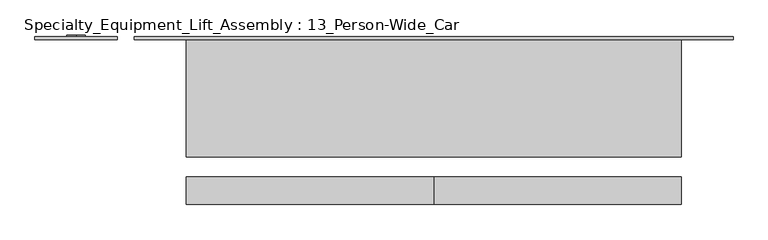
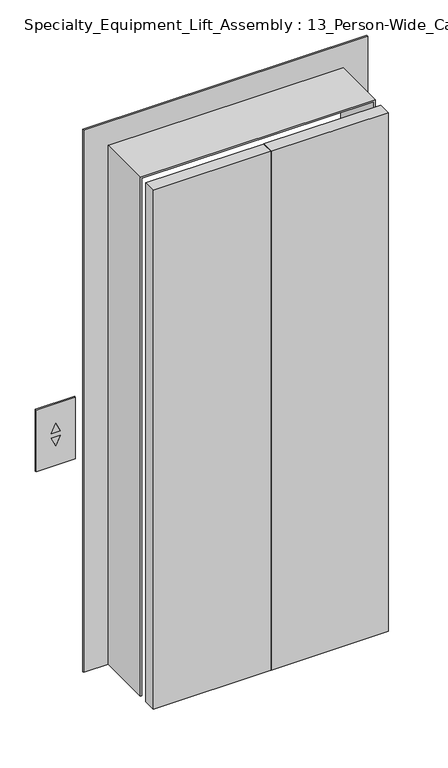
"""IFC4 building model written with IfcOpenShell, lengths in millimetres: proxy geometry, Specialty_Equipment_Lift_Assembly : 13_Person-Wide_Car."""

import ifcopenshell
import ifcopenshell.guid

model = None  # the IFC model being written
_history = None  # IfcOwnerHistory: only IFC2X3 demands one
_inside = {}  # id of a spatial element -> (the spatial element, [elements in it])
_under = {}  # id of a project, library or spatial element -> (it, [spatial elements below it])
_declared = {}  # id of a project -> (the project, [libraries it declares])
_typed = {}  # id of a type object -> (the type object, [elements of that type])
_made_of = {}  # id of a material, layer set ... -> (it, [elements and type objects made of it])


def new_model(schema):
    """Start an empty IFC model of exactly this schema.

    Asked for "IFC4X3", IfcOpenShell would pick the latest addendum, in which some entities
    have other attributes; the version numbers below select the first issue.
    IFC2X3 requires an IfcOwnerHistory on every rooted entity: one is made here for all.
    """
    global model, _history
    if schema == "IFC4X3":
        model = ifcopenshell.file(schema_version=(4, 3, 0, 0))
    else:
        model = ifcopenshell.file(schema=schema)
    _inside.clear()
    _under.clear()
    _declared.clear()
    _typed.clear()
    _made_of.clear()
    _history = None
    if model.schema == "IFC2X3":
        org = make("IfcOrganization", Name="unknown")
        user = make(
            "IfcPersonAndOrganization",
            ThePerson=make("IfcPerson", FamilyName="unknown"),
            TheOrganization=org,
        )
        app = make(
            "IfcApplication",
            ApplicationDeveloper=org,
            Version="unknown",
            ApplicationFullName="unknown",
            ApplicationIdentifier="unknown",
        )
        _history = make(
            "IfcOwnerHistory",
            OwningUser=user,
            OwningApplication=app,
            ChangeAction="ADDED",
            CreationDate=0,
        )
    return model


def make(cls, **values):
    """One entity of the class cls with the attributes given. An attribute that is None is left unset."""
    return model.create_entity(
        cls, **{name: value for name, value in values.items() if value is not None}
    )


def rooted(cls, **values):
    """An entity with a GlobalId (a new one), such as an element, a storey or a relation."""
    return make(cls, GlobalId=ifcopenshell.guid.new(), OwnerHistory=_history, **values)


def si_unit(unit_type, name, prefix=None):
    """IfcSIUnit, for example si_unit("LENGTHUNIT", "METRE", prefix="MILLI")."""
    return make("IfcSIUnit", UnitType=unit_type, Prefix=prefix, Name=name)


def assignment(units):
    """IfcUnitAssignment: the units of a project."""
    return None if units is None else make("IfcUnitAssignment", Units=units)


def point(xyz):
    """IfcCartesianPoint."""
    return None if xyz is None else make("IfcCartesianPoint", Coordinates=xyz)


def direction(xyz):
    """IfcDirection."""
    return None if xyz is None else make("IfcDirection", DirectionRatios=xyz)


def frame(location, z_axis=None, x_axis=None):
    """IfcAxis2Placement3D, a coordinate frame: its origin and axes. An axis left out is left unset."""
    return make(
        "IfcAxis2Placement3D",
        Location=point(location),
        Axis=direction(z_axis),
        RefDirection=direction(x_axis),
    )


def origin():
    """The frame at (0, 0, 0) with its axes left unset."""
    return frame((0.0, 0.0, 0.0))


def origin_with_axes():
    """The frame at (0, 0, 0) with the z axis (0, 0, 1) and the x axis (1, 0, 0) written out."""
    return frame((0.0, 0.0, 0.0), z_axis=(0.0, 0.0, 1.0), x_axis=(1.0, 0.0, 0.0))


def place(relative_to, where):
    """IfcLocalPlacement: puts the frame where relative to a parent placement (None: the world)."""
    return make(
        "IfcLocalPlacement", PlacementRelTo=relative_to, RelativePlacement=where
    )


def context(
    kind, dimensions, precision=None, world=None, true_north=None, identifier=None
):
    """IfcGeometricRepresentationContext, for example the 3D "Model" context."""
    return make(
        "IfcGeometricRepresentationContext",
        ContextIdentifier=identifier,
        ContextType=kind,
        CoordinateSpaceDimension=dimensions,
        Precision=precision,
        WorldCoordinateSystem=world,
        TrueNorth=true_north,
    )


def project(units=None, contexts=None):
    """IfcProject with its units and contexts."""
    return rooted(
        "IfcProject",
        Name="project",
        RepresentationContexts=contexts,
        UnitsInContext=assignment(units),
    )


def spatial(cls, under=None, at=None, **own):
    """A site, building, storey or space (cls), placed at a placement, below another one or the project."""
    s = rooted(cls, ObjectPlacement=at, **own)
    if under is not None:
        _under.setdefault(under.id(), (under, []))[1].append(s)
    return s


def polyline(points):
    """IfcPolyline through the points."""
    return make("IfcPolyline", Points=[point(p) for p in points])


def outline(outer, holes=None, kind="AREA"):
    """IfcArbitraryClosedProfileDef: a profile drawn as a closed curve; with holes, ...WithVoids."""
    if holes is None:
        return make("IfcArbitraryClosedProfileDef", ProfileType=kind, OuterCurve=outer)
    return make(
        "IfcArbitraryProfileDefWithVoids",
        ProfileType=kind,
        OuterCurve=outer,
        InnerCurves=holes,
    )


def extrude(swept, where, along, depth):
    """IfcExtrudedAreaSolid: the profile swept, set in the frame where, extruded along a direction by depth."""
    return make(
        "IfcExtrudedAreaSolid",
        SweptArea=swept,
        Position=where,
        ExtrudedDirection=direction(along),
        Depth=depth,
    )


def faces_of(points, faces, orient=None, outer=None):
    """IfcFace entities. A face is a list of loops; a loop is a list of indices into points, from 0.

    orient and outer hold one flag for each loop. By default every Orientation is true, the
    first loop of a face is its IfcFaceOuterBound and the others are IfcFaceBound.
    """
    made = []
    for i, loops in enumerate(faces):
        bounds = []
        for j, loop in enumerate(loops):
            is_outer = j == 0 if outer is None else outer[i][j]
            bounds.append(
                make(
                    "IfcFaceOuterBound" if is_outer else "IfcFaceBound",
                    Bound=make("IfcPolyLoop", Polygon=[points[k] for k in loop]),
                    Orientation=True if orient is None else orient[i][j],
                )
            )
        made.append(make("IfcFace", Bounds=bounds))
    return made


def faceted_brep(points, faces, orient=None, outer=None, voids=None):
    """IfcFacetedBrep: a solid bounded by flat faces; with voids (closed shells), ...WithVoids."""
    shared = [point(p) for p in points]
    hull = make("IfcClosedShell", CfsFaces=faces_of(shared, faces, orient, outer))
    if voids is None:
        return make("IfcFacetedBrep", Outer=hull)
    return make(
        "IfcFacetedBrepWithVoids",
        Outer=hull,
        Voids=[
            make(cls, CfsFaces=faces_of(shared, fs, o, b)) for cls, fs, o, b in voids
        ],
    )


def shape(context_of_items, identifier, shape_type, items):
    """IfcShapeRepresentation: the items that make up one representation, for example the "Body"."""
    return make(
        "IfcShapeRepresentation",
        ContextOfItems=context_of_items,
        RepresentationIdentifier=identifier,
        RepresentationType=shape_type,
        Items=items,
    )


def source(mapping_origin, context_of_items, identifier, shape_type, items):
    """IfcRepresentationMap: a shape defined once, which mapped items show again and again."""
    return make(
        "IfcRepresentationMap",
        MappingOrigin=mapping_origin,
        MappedRepresentation=shape(context_of_items, identifier, shape_type, items),
    )


def transform(
    local_origin,
    x_axis=None,
    y_axis=None,
    z_axis=None,
    scale=None,
    scale2=None,
    scale3=None,
    uniform=True,
):
    """IfcCartesianTransformationOperator3D, or its non-uniform kind. x_axis, y_axis, z_axis: its Axis1, 2, 3."""
    if uniform:
        return make(
            "IfcCartesianTransformationOperator3D",
            Axis1=direction(x_axis),
            Axis2=direction(y_axis),
            LocalOrigin=point(local_origin),
            Scale=scale,
            Axis3=direction(z_axis),
        )
    return make(
        "IfcCartesianTransformationOperator3DnonUniform",
        Axis1=direction(x_axis),
        Axis2=direction(y_axis),
        LocalOrigin=point(local_origin),
        Scale=scale,
        Axis3=direction(z_axis),
        Scale2=scale2,
        Scale3=scale3,
    )


def mapped(mapping_source, mapping_target):
    """IfcMappedItem: shows the shape of a source again, moved by a transform."""
    return make(
        "IfcMappedItem", MappingSource=mapping_source, MappingTarget=mapping_target
    )


def made_of(thing, what):
    """Note that an element or type object is made of a material, layer set ...; save() writes the relation."""
    if what is not None:
        _made_of.setdefault(what.id(), (what, []))[1].append(thing)
    return thing


def element(
    cls,
    number,
    at=None,
    inside=None,
    cuts=None,
    type_object=None,
    material=None,
    context=None,
    identifier="Body",
    shape_type=None,
    held_by="IfcProductDefinitionShape",
    body=None,
    shapes=None,
    **own,
):
    """One element of the class cls, such as IfcWall. Its Tag is "e" and its number.

    at: its placement. inside: the storey or other place that contains it. cuts: it is an
    opening in that element (IfcRelVoidsElement). A single representation is given by context,
    identifier, shape_type and body (its items); several are given by shapes. held_by: the class
    of the entity that holds the representations. save() writes the other relations.
    """
    e = rooted(cls, Tag="e%d" % number, ObjectPlacement=at, **own)
    if body is not None:
        shapes = [shape(context, identifier, shape_type, body)]
    if shapes is not None:
        e.Representation = make(held_by, Representations=shapes)
    if inside is not None:
        _inside.setdefault(inside.id(), (inside, []))[1].append(e)
    if cuts is not None:
        rooted(
            "IfcRelVoidsElement", RelatingBuildingElement=cuts, RelatedOpeningElement=e
        )
    if type_object is not None:
        _typed.setdefault(type_object.id(), (type_object, []))[1].append(e)
    return made_of(e, material)


def aggregate(whole, parts):
    """IfcRelAggregates: a whole, such as a stair, and the parts it consists of."""
    return rooted("IfcRelAggregates", RelatingObject=whole, RelatedObjects=parts)


def save(model, path):
    """Write the relations noted so far, then the file.

    IfcRelAggregates (storeys below a building ...), IfcRelContainedInSpatialStructure (elements
    in a storey), IfcRelDefinesByType, IfcRelAssociatesMaterial and IfcRelDeclares: one each for
    every whole, place, type object, material and project.
    """
    for whole, parts in _under.values():
        aggregate(whole, parts)
    for where, things in _inside.values():
        rooted(
            "IfcRelContainedInSpatialStructure",
            RelatedElements=things,
            RelatingStructure=where,
        )
    for kind, things in _typed.values():
        rooted("IfcRelDefinesByType", RelatedObjects=things, RelatingType=kind)
    for what, things in _made_of.values():
        rooted("IfcRelAssociatesMaterial", RelatedObjects=things, RelatingMaterial=what)
    for by, libraries in _declared.values():
        rooted("IfcRelDeclares", RelatingContext=by, RelatedDefinitions=libraries)
    model.write(path)


def specialty_equipment_lift_assembly_13_person_wide_car_fb916a52(model_context):
    return source(origin(), model_context, "Body", "SolidModel", [
        extrude(outline(polyline([(1008.7476885, -883.0952695), (1045.0, -900.0), (1008.7476885, -916.9047305), (1008.7476885, -883.0952695)])), frame((0.0, 125.0, 0.0), z_axis=(0.0, 1.0, 0.0), x_axis=(0.0, 0.0, 1.0)), (0.0, 0.0, 1.0), 9.0),
        extrude(outline(polyline([(991.2523115, -883.0952695), (991.2523115, -916.9047305), (955.0, -900.0), (991.2523115, -883.0952695)])), frame((0.0, 125.0, 0.0), z_axis=(0.0, 1.0, 0.0), x_axis=(0.0, 0.0, 1.0)), (0.0, 0.0, 1.0), 9.0),
        extrude(outline(polyline([(200.0, -175.0), (-249.0, -175.0), (-249.0, -125.0), (200.0, -125.0), (200.0, -175.0)])), origin_with_axes(), (0.0, 0.0, 1.0), 2100.0),
        extrude(outline(polyline([(-250.0, -175.0), (-700.0, -175.0), (-700.0, -125.0), (-250.0, -125.0), (-250.0, -175.0)])), origin_with_axes(), (0.0, 0.0, 1.0), 2100.0),
        extrude(outline(polyline([(875.0, -975.0), (875.0, -825.0), (1125.0, -825.0), (1125.0, -975.0), (875.0, -975.0)]), holes=[polyline([(1008.7476885, -883.0952695), (1008.7476885, -916.9047305), (1045.0, -900.0), (1008.7476885, -883.0952695)]), polyline([(991.2523115, -883.0952695), (955.0, -900.0), (991.2523115, -916.9047305), (991.2523115, -883.0952695)])]), frame((0.0, 125.0, 0.0), z_axis=(0.0, 1.0, 0.0), x_axis=(0.0, 0.0, 1.0)), (0.0, 0.0, 1.0), 6.0),
        faceted_brep([(294.0, 131.0, 0.0), (294.0, 125.0, 0.0), (200.0, 125.0, 0.0), (200.0, -88.0, 0.0), (194.0, -88.0, 0.0), (194.0, 131.0, 0.0), (294.0, 131.0, 2194.0), (294.0, 125.0, 2194.0), (-794.0, 125.0, 2194.0), (-794.0, 125.0, 0.0), (-700.0, 125.0, 0.0), (-700.0, 125.0, 2100.0), (200.0, 125.0, 2100.0), (200.0, -88.0, 2100.0), (-700.0, -88.0, 2100.0), (-700.0, -88.0, 0.0), (-694.0, -88.0, 0.0), (-694.0, -88.0, 2094.0), (194.0, -88.0, 2094.0), (194.0, 131.0, 2094.0), (-694.0, 131.0, 2094.0), (-694.0, 131.0, 0.0), (-794.0, 131.0, 0.0), (-794.0, 131.0, 2194.0)], [[[0, 1, 2, 3, 4, 5]], [[1, 0, 6, 7]], [[2, 1, 7, 8, 9, 10, 11, 12]], [[3, 2, 12, 13]], [[4, 3, 13, 14, 15, 16, 17, 18]], [[5, 4, 18, 19]], [[0, 5, 19, 20, 21, 22, 23, 6]], [[7, 6, 23, 8]], [[13, 12, 11, 14]], [[19, 18, 17, 20]], [[22, 21, 16, 15, 10, 9]], [[8, 23, 22, 9]], [[14, 11, 10, 15]], [[20, 17, 16, 21]]]),
    ])


if __name__ == "__main__":
    model = new_model("IFC4")
    model_context = context("Model", 3, world=origin())
    ifc_project = project(units=[si_unit("LENGTHUNIT", "METRE", prefix="MILLI")], contexts=[model_context])
    site = spatial("IfcSite", under=ifc_project)
    building = spatial("IfcBuilding", under=site)
    placement = place(None, origin())
    specialty_equipment_lift_assembly_13_person_wide_car_shape = specialty_equipment_lift_assembly_13_person_wide_car_fb916a52(model_context)
    element("IfcBuildingElementProxy", 1, Name="Specialty_Equipment_Lift_Assembly : 13_Person-Wide_Car", ObjectType="Specialty_Equipment_Lift_Assembly : 13_Person-Wide_Car", at=placement, inside=building, context=model_context, shape_type="MappedRepresentation", body=[
        mapped(specialty_equipment_lift_assembly_13_person_wide_car_shape, transform((0.0, 0.0, 0.0), x_axis=(1.0, 0.0, 0.0), y_axis=(0.0, 1.0, 0.0), z_axis=(0.0, 0.0, 1.0))),
    ])
    save(model, "model.ifc")
